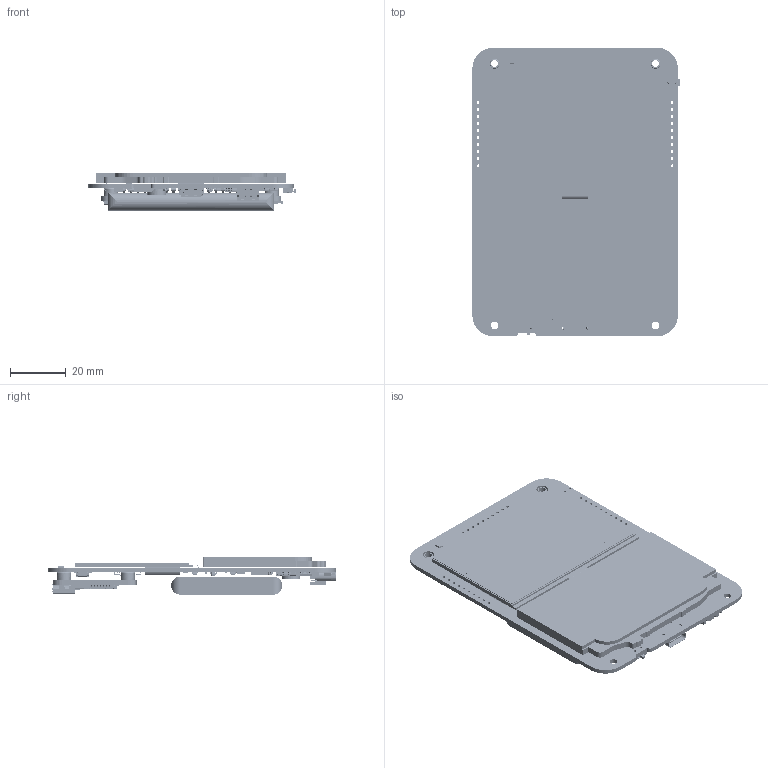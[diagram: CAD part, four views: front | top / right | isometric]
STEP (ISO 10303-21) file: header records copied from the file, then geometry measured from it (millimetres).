
FILE_DESCRIPTION(/* description */ ('Beepy v1'),/* implementation_level */ '2;1');
FILE_NAME(/* name */ 'beepy-v1.step',/* time_stamp */ '2023-05-20T14:28:25-04:00',/* author */ ('SQFMI'),/* organization */ ('SQFMI'),/* preprocessor_version */ 'ST-DEVELOPER v19.2',/* originating_system */ '',/* authorisation */ '');
FILE_SCHEMA (('AUTOMOTIVE_DESIGN { 1 0 10303 214 3 1 1 }'));
Products named in the file (77): beeperv2case; Raspberry Pi Zero 2 W; PCB, Raspberry Pi Zero 2 W; RP3A0-AU 2105 201221C, Raspberry Pi Zero 2 W; SD Card Slot, Raspberry Pi Zero 2 W; Wireless Module Cover, Raspberry Pi Zero 2 W; Crystal Resonator, Raspberry Pi Zero 2 W; LED, Raspberry Pi Zero 2 W; Diode, Schottky, Raspberry Pi Zero 2 W; 54548-2271, 22 Pin FPC Connector, Raspberry Pi Zero 2 W; Mini HDMI Receptacle Port, Raspberry Pi Zero 2 W; PAM2306AYPKE, Switching Voltage Regulators Dual PWM Step-Down 40uA 1A
 1.5MHz, Raspberry Pi Zero 2 W; RT9081A-1BGQZA, Fixed LDO Voltage Regulator, 0.8V-5.5Vin, 140mV drop,
 1.25Vout, 0.5Aout, Raspberry Pi Zero 2 W_default; RT8088AWSC, IC Reg Buck Prog 3A Sync 15WLCSP, Raspberry Pi Zero 2 W_d
efault; SMD Inductor, Configurable, Raspberry Pi Zero 2 W_L1; SMD Inductor, Configurable, Raspberry Pi Zero 2 W_L2; MicroUSB Port, Raspberry Pi Zero 2 W; SMD Capacitor, Configurable, Raspberry Pi Zero 2 W_C1; SMD Capacitor, Configurable, Raspberry Pi Zero 2 W_C3; SMD Capacitor, Configurable, Raspberry Pi Zero 2 W_C10; SMD Resistor, Configurable, Raspberry Pi Zero 2 W_R12; SMD Resistor, Configurable, Raspberry Pi Zero 2 W_R1; SMD Capacitor, Configurable, Raspberry Pi Zero 2 W_C2; beeperv2; RGB LED SMD 2121 v1; COMPOUND; SSOP-8_5.25x5.24mm_P1.27mm; SOLID (1); SSOP-16_4.4x5.2mm_P0.65mm; SOLID (2); EVQPU-LC-02K; SOLID (5); C_1206_3216Metric; SOLID (7); L_TDK_SLF7032; SOLID (8); QFN-56-1EP_7x7mm_P0.4mm_EP5.6x5.6mm; SOLID (9); FH34SRJ-10S-0.5SH_50_; COMPOUND (2) ...
Assembly tree (258 placements, depth 4):
  beeperv2case
    Raspberry Pi Zero 2 W
      PCB, Raspberry Pi Zero 2 W
      RP3A0-AU 2105 201221C, Raspberry Pi Zero 2 W
      MicroUSB Port, Raspberry Pi Zero 2 W  x2
      SD Card Slot, Raspberry Pi Zero 2 W
      Wireless Module Cover, Raspberry Pi Zero 2 W
      Crystal Resonator, Raspberry Pi Zero 2 W
      LED, Raspberry Pi Zero 2 W
      Diode, Schottky, Raspberry Pi Zero 2 W
      54548-2271, 22 Pin FPC Connector, Raspberry Pi Zero 2 W
      Mini HDMI Receptacle Port, Raspberry Pi Zero 2 W
      PAM2306AYPKE, Switching Voltage Regulators Dual PWM Step-Down 40uA 1A
 1.5MHz, Raspberry Pi Zero 2 W
      RT9081A-1BGQZA, Fixed LDO Voltage Regulator, 0.8V-5.5Vin, 140mV drop,
 1.25Vout, 0.5Aout, Raspberry Pi Zero 2 W_default
      RT8088AWSC, IC Reg Buck Prog 3A Sync 15WLCSP, Raspberry Pi Zero 2 W_d
efault
      SMD Inductor, Configurable, Raspberry Pi Zero 2 W_L1
      SMD Inductor, Configurable, Raspberry Pi Zero 2 W_L2
      SMD Capacitor, Configurable, Raspberry Pi Zero 2 W_C1  x3
      SMD Capacitor, Configurable, Raspberry Pi Zero 2 W_C3  x7
      SMD Capacitor, Configurable, Raspberry Pi Zero 2 W_C2  x31
      SMD Capacitor, Configurable, Raspberry Pi Zero 2 W_C10  x15
      SMD Resistor, Configurable, Raspberry Pi Zero 2 W_R1  x20
      SMD Resistor, Configurable, Raspberry Pi Zero 2 W_R12
    beeperv2
      RGB LED SMD 2121 v1
        COMPOUND
      R_0603_1608Metric  x38
        SOLID
      s7141-45  x40
        COMPOUND (1)
      SSOP-8_5.25x5.24mm_P1.27mm
        SOLID (1)
      SSOP-16_4.4x5.2mm_P0.65mm
        SOLID (2)
      SOT-23  x9
        SOLID (3)
      SOT-23-5  x4
        SOLID (4)
      EVQPU-LC-02K
        SOLID (5)
      C_0603_1608Metric  x20
        SOLID (6)
      C_1206_3216Metric
        SOLID (7)
      L_TDK_SLF7032
        SOLID (8)
      QFN-56-1EP_7x7mm_P0.4mm_EP5.6x5.6mm
        SOLID (9)
      FH34SRJ-10S-0.5SH_50_
        COMPOUND (2)
      LS027B7DH01
        COMPOUND (3)
      D_SOD-323
        SOLID (10)
      NUTSMDM25H03mm  x4
        SOLID (11)
      CP_EIA-3528-15_AVX-H  x2
        SOLID (12)
      S2B-PH-SM4-TB
        COMPOUND (4)
Bounding box: 74.67 x 104 x 13.45 mm (x, y, z)
Volume: 44559.2 mm3; surface area: 50435.9 mm2
Topology: 491 solids, 491 shells, 19729 faces, 50920 edges, 32117 vertices
Faces by surface type: plane 13151, cylinder 4923, torus 787, bspline 684, cone 106, sphere 78
Full cylindrical faces by diameter (mm): 0.3 x6, 0.4 x1, 0.5 x4, 0.65 x4, 0.75 x2, 0.8 x2, 0.9 x2, 1 x110, 1.4 x80, 1.6 x1, 2.6 x4, 2.7 x6, 3.5 x4, 4.22 x4, 5 x1, 5.1 x4, 6 x8, 6.6 x1, 6.8 x1
Entity records: 383347 total; most frequent: CARTESIAN_POINT 90412, ORIENTED_EDGE 61378, DIRECTION 58326, EDGE_CURVE 30689, LINE 24326, VECTOR 24326, VERTEX_POINT 19801, AXIS2_PLACEMENT_3D 17000
